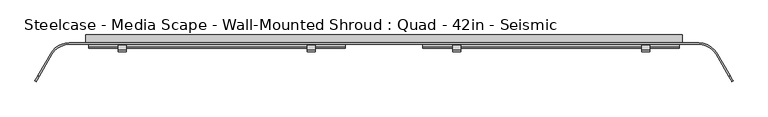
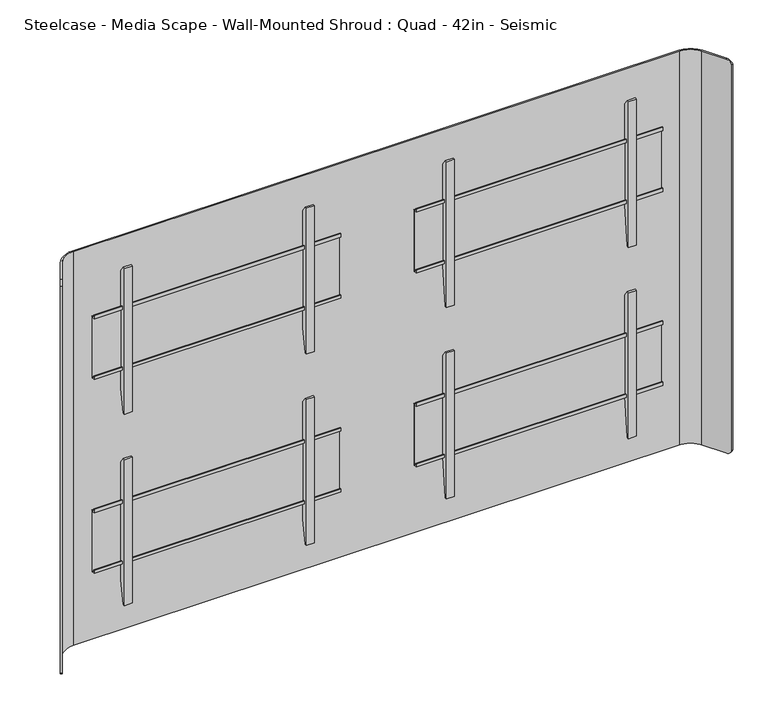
"""IFC4 building model written with IfcOpenShell, lengths in millimetres: furniture geometry, Steelcase - Media Scape - Wall-Mounted Shroud : Quad - 42in - Seismic."""

import ifcopenshell
import ifcopenshell.guid

model = None  # the IFC model being written
_history = None  # IfcOwnerHistory: only IFC2X3 demands one
_inside = {}  # id of a spatial element -> (the spatial element, [elements in it])
_under = {}  # id of a project, library or spatial element -> (it, [spatial elements below it])
_declared = {}  # id of a project -> (the project, [libraries it declares])
_typed = {}  # id of a type object -> (the type object, [elements of that type])
_made_of = {}  # id of a material, layer set ... -> (it, [elements and type objects made of it])


def new_model(schema):
    """Start an empty IFC model of exactly this schema.

    Asked for "IFC4X3", IfcOpenShell would pick the latest addendum, in which some entities
    have other attributes; the version numbers below select the first issue.
    IFC2X3 requires an IfcOwnerHistory on every rooted entity: one is made here for all.
    """
    global model, _history
    if schema == "IFC4X3":
        model = ifcopenshell.file(schema_version=(4, 3, 0, 0))
    else:
        model = ifcopenshell.file(schema=schema)
    _inside.clear()
    _under.clear()
    _declared.clear()
    _typed.clear()
    _made_of.clear()
    _history = None
    if model.schema == "IFC2X3":
        org = make("IfcOrganization", Name="unknown")
        user = make(
            "IfcPersonAndOrganization",
            ThePerson=make("IfcPerson", FamilyName="unknown"),
            TheOrganization=org,
        )
        app = make(
            "IfcApplication",
            ApplicationDeveloper=org,
            Version="unknown",
            ApplicationFullName="unknown",
            ApplicationIdentifier="unknown",
        )
        _history = make(
            "IfcOwnerHistory",
            OwningUser=user,
            OwningApplication=app,
            ChangeAction="ADDED",
            CreationDate=0,
        )
    return model


def make(cls, **values):
    """One entity of the class cls with the attributes given. An attribute that is None is left unset."""
    return model.create_entity(
        cls, **{name: value for name, value in values.items() if value is not None}
    )


def rooted(cls, **values):
    """An entity with a GlobalId (a new one), such as an element, a storey or a relation."""
    return make(cls, GlobalId=ifcopenshell.guid.new(), OwnerHistory=_history, **values)


def si_unit(unit_type, name, prefix=None):
    """IfcSIUnit, for example si_unit("LENGTHUNIT", "METRE", prefix="MILLI")."""
    return make("IfcSIUnit", UnitType=unit_type, Prefix=prefix, Name=name)


def assignment(units):
    """IfcUnitAssignment: the units of a project."""
    return None if units is None else make("IfcUnitAssignment", Units=units)


def point(xyz):
    """IfcCartesianPoint."""
    return None if xyz is None else make("IfcCartesianPoint", Coordinates=xyz)


def direction(xyz):
    """IfcDirection."""
    return None if xyz is None else make("IfcDirection", DirectionRatios=xyz)


def frame(location, z_axis=None, x_axis=None):
    """IfcAxis2Placement3D, a coordinate frame: its origin and axes. An axis left out is left unset."""
    return make(
        "IfcAxis2Placement3D",
        Location=point(location),
        Axis=direction(z_axis),
        RefDirection=direction(x_axis),
    )


def origin():
    """The frame at (0, 0, 0) with its axes left unset."""
    return frame((0.0, 0.0, 0.0))


def place(relative_to, where):
    """IfcLocalPlacement: puts the frame where relative to a parent placement (None: the world)."""
    return make(
        "IfcLocalPlacement", PlacementRelTo=relative_to, RelativePlacement=where
    )


def context(
    kind, dimensions, precision=None, world=None, true_north=None, identifier=None
):
    """IfcGeometricRepresentationContext, for example the 3D "Model" context."""
    return make(
        "IfcGeometricRepresentationContext",
        ContextIdentifier=identifier,
        ContextType=kind,
        CoordinateSpaceDimension=dimensions,
        Precision=precision,
        WorldCoordinateSystem=world,
        TrueNorth=true_north,
    )


def project(units=None, contexts=None):
    """IfcProject with its units and contexts."""
    return rooted(
        "IfcProject",
        Name="project",
        RepresentationContexts=contexts,
        UnitsInContext=assignment(units),
    )


def spatial(cls, under=None, at=None, **own):
    """A site, building, storey or space (cls), placed at a placement, below another one or the project."""
    s = rooted(cls, ObjectPlacement=at, **own)
    if under is not None:
        _under.setdefault(under.id(), (under, []))[1].append(s)
    return s


def polyline(points):
    """IfcPolyline through the points."""
    return make("IfcPolyline", Points=[point(p) for p in points])


def circle_curve(where, radius):
    """IfcCircle in the frame where."""
    return make("IfcCircle", Position=where, Radius=radius)


def outline(outer, holes=None, kind="AREA"):
    """IfcArbitraryClosedProfileDef: a profile drawn as a closed curve; with holes, ...WithVoids."""
    if holes is None:
        return make("IfcArbitraryClosedProfileDef", ProfileType=kind, OuterCurve=outer)
    return make(
        "IfcArbitraryProfileDefWithVoids",
        ProfileType=kind,
        OuterCurve=outer,
        InnerCurves=holes,
    )


def extrude(swept, where, along, depth):
    """IfcExtrudedAreaSolid: the profile swept, set in the frame where, extruded along a direction by depth."""
    return make(
        "IfcExtrudedAreaSolid",
        SweptArea=swept,
        Position=where,
        ExtrudedDirection=direction(along),
        Depth=depth,
    )


def shape(context_of_items, identifier, shape_type, items):
    """IfcShapeRepresentation: the items that make up one representation, for example the "Body"."""
    return make(
        "IfcShapeRepresentation",
        ContextOfItems=context_of_items,
        RepresentationIdentifier=identifier,
        RepresentationType=shape_type,
        Items=items,
    )


def source(mapping_origin, context_of_items, identifier, shape_type, items):
    """IfcRepresentationMap: a shape defined once, which mapped items show again and again."""
    return make(
        "IfcRepresentationMap",
        MappingOrigin=mapping_origin,
        MappedRepresentation=shape(context_of_items, identifier, shape_type, items),
    )


def transform(
    local_origin,
    x_axis=None,
    y_axis=None,
    z_axis=None,
    scale=None,
    scale2=None,
    scale3=None,
    uniform=True,
):
    """IfcCartesianTransformationOperator3D, or its non-uniform kind. x_axis, y_axis, z_axis: its Axis1, 2, 3."""
    if uniform:
        return make(
            "IfcCartesianTransformationOperator3D",
            Axis1=direction(x_axis),
            Axis2=direction(y_axis),
            LocalOrigin=point(local_origin),
            Scale=scale,
            Axis3=direction(z_axis),
        )
    return make(
        "IfcCartesianTransformationOperator3DnonUniform",
        Axis1=direction(x_axis),
        Axis2=direction(y_axis),
        LocalOrigin=point(local_origin),
        Scale=scale,
        Axis3=direction(z_axis),
        Scale2=scale2,
        Scale3=scale3,
    )


def mapped(mapping_source, mapping_target):
    """IfcMappedItem: shows the shape of a source again, moved by a transform."""
    return make(
        "IfcMappedItem", MappingSource=mapping_source, MappingTarget=mapping_target
    )


def made_of(thing, what):
    """Note that an element or type object is made of a material, layer set ...; save() writes the relation."""
    if what is not None:
        _made_of.setdefault(what.id(), (what, []))[1].append(thing)
    return thing


def element(
    cls,
    number,
    at=None,
    inside=None,
    cuts=None,
    type_object=None,
    material=None,
    context=None,
    identifier="Body",
    shape_type=None,
    held_by="IfcProductDefinitionShape",
    body=None,
    shapes=None,
    **own,
):
    """One element of the class cls, such as IfcWall. Its Tag is "e" and its number.

    at: its placement. inside: the storey or other place that contains it. cuts: it is an
    opening in that element (IfcRelVoidsElement). A single representation is given by context,
    identifier, shape_type and body (its items); several are given by shapes. held_by: the class
    of the entity that holds the representations. save() writes the other relations.
    """
    e = rooted(cls, Tag="e%d" % number, ObjectPlacement=at, **own)
    if body is not None:
        shapes = [shape(context, identifier, shape_type, body)]
    if shapes is not None:
        e.Representation = make(held_by, Representations=shapes)
    if inside is not None:
        _inside.setdefault(inside.id(), (inside, []))[1].append(e)
    if cuts is not None:
        rooted(
            "IfcRelVoidsElement", RelatingBuildingElement=cuts, RelatedOpeningElement=e
        )
    if type_object is not None:
        _typed.setdefault(type_object.id(), (type_object, []))[1].append(e)
    return made_of(e, material)


def aggregate(whole, parts):
    """IfcRelAggregates: a whole, such as a stair, and the parts it consists of."""
    return rooted("IfcRelAggregates", RelatingObject=whole, RelatedObjects=parts)


def save(model, path):
    """Write the relations noted so far, then the file.

    IfcRelAggregates (storeys below a building ...), IfcRelContainedInSpatialStructure (elements
    in a storey), IfcRelDefinesByType, IfcRelAssociatesMaterial and IfcRelDeclares: one each for
    every whole, place, type object, material and project.
    """
    for whole, parts in _under.values():
        aggregate(whole, parts)
    for where, things in _inside.values():
        rooted(
            "IfcRelContainedInSpatialStructure",
            RelatedElements=things,
            RelatingStructure=where,
        )
    for kind, things in _typed.values():
        rooted("IfcRelDefinesByType", RelatedObjects=things, RelatingType=kind)
    for what, things in _made_of.values():
        rooted("IfcRelAssociatesMaterial", RelatedObjects=things, RelatingMaterial=what)
    for by, libraries in _declared.values():
        rooted("IfcRelDeclares", RelatingContext=by, RelatedDefinitions=libraries)
    model.write(path)


def plane_surface(at):
    """IfcPlane: the flat surface through the origin of the frame at, square to its z axis."""
    return make("IfcPlane", Position=at)


def cylinder_surface(at, radius):
    """IfcCylindricalSurface: all points at the distance radius from the z axis of the frame at."""
    return make("IfcCylindricalSurface", Position=at, Radius=radius)


def revolved_surface(curve, axis_point, axis_direction):
    """IfcSurfaceOfRevolution: the curve turned about the line through axis_point along axis_direction."""
    return make(
        "IfcSurfaceOfRevolution",
        SweptCurve=make("IfcArbitraryOpenProfileDef", ProfileType="CURVE", Curve=curve),
        AxisPosition=make("IfcAxis1Placement", Location=point(axis_point), Axis=direction(axis_direction)),
    )


def advanced_brep(points, edges, surfaces, faces):
    """IfcAdvancedBrep: a solid bounded by faces that lie on surfaces and meet in shared edges.

    An edge is (start, end): straight between two places in points (the first is 0);
    or (start, end, curve); or (start, end, curve, False) where it runs against its curve.
    A face is (place in surfaces, loops), or (place, loops, False) where it looks against
    its surface's normal. A loop lists edges by number (the first is 1), with a minus sign
    where the edge is run from its end to its start. The first loop is the outer one.
    """
    corners = [point(p) for p in points]
    vertices = [make("IfcVertexPoint", VertexGeometry=c) for c in corners]
    made = []
    for start, end, *more in edges:
        made.append(
            make(
                "IfcEdgeCurve",
                EdgeStart=vertices[start],
                EdgeEnd=vertices[end],
                EdgeGeometry=more[0] if more else make("IfcPolyline", Points=[corners[start], corners[end]]),
                SameSense=more[1] if len(more) > 1 else True,
            )
        )
    hull = []
    for where, loops, *sense in faces:
        bounds = []
        for j, loop in enumerate(loops):
            ring = [make("IfcOrientedEdge", EdgeElement=made[abs(k) - 1], Orientation=k > 0) for k in loop]
            bounds.append(
                make(
                    "IfcFaceOuterBound" if j == 0 else "IfcFaceBound",
                    Bound=make("IfcEdgeLoop", EdgeList=ring),
                    Orientation=True,
                )
            )
        hull.append(make("IfcAdvancedFace", Bounds=bounds, FaceSurface=surfaces[where], SameSense=sense[0] if sense else True))
    return make("IfcAdvancedBrep", Outer=make("IfcClosedShell", CfsFaces=hull))


def steelcase_media_scape_wall_mounted_shroud_quad_42in_seismic_1889dec9(model_context):
    return source(origin(), model_context, "Body", "SolidModel", [
        extrude(outline(polyline([(-32.6531824, 1422.3760207), (-32.6531824, 1070.6606853), (-46.5069553, 934.5929758), (-53.3399828, 934.5929758), (-53.3399828, 1442.593), (-46.5596063, 1442.593), (-32.6531824, 1422.3760207)])), frame((816.6102868, 0.0, 0.0), z_axis=(1.0, 0.0, 0.0), x_axis=(0.0, 1.0, 0.0)), (0.0, 0.0, 1.0), 26.1592872),
        extrude(outline(polyline([(-32.6531824, 1422.3760207), (-32.6531824, 1070.5614666), (-46.4968533, 934.5929758), (-53.3399828, 934.5929758), (-53.3399828, 1442.593), (-46.5596063, 1442.593), (-32.6531824, 1422.3760207)])), frame((217.172426, 0.0, 0.0), z_axis=(1.0, 0.0, 0.0), x_axis=(0.0, 1.0, 0.0)), (0.0, 0.0, 1.0), 26.1592872),
        extrude(outline(polyline([(-32.6531824, 1422.4553957), (-32.6531824, 1012.2208416), (-46.5049349, 934.5929758), (-53.3399828, 934.5929758), (-53.3399828, 1442.593), (-46.5050076, 1442.593), (-32.6531824, 1422.4553957)])), frame((-243.3317132, 0.0, 0.0), z_axis=(1.0, 0.0, 0.0), x_axis=(0.0, 1.0, 0.0)), (0.0, 0.0, 1.0), 26.1592872),
        extrude(outline(polyline([(-32.6531824, 1422.4553957), (-32.6531824, 1012.2208416), (-46.5049349, 934.5929758), (-53.3399828, 934.5929758), (-53.3399828, 1442.593), (-46.5050076, 1442.593), (-32.6531824, 1422.4553957)])), frame((-842.769574, 0.0, 0.0), z_axis=(1.0, 0.0, 0.0), x_axis=(0.0, 1.0, 0.0)), (0.0, 0.0, 1.0), 26.1592872),
        extrude(outline(polyline([(-42.4942785, 1283.843), (-42.4942785, 1295.7554512), (-39.8272175, 1295.7554512), (-39.8272175, 1286.4172973), (-29.9720009, 1286.4172973), (-29.9720009, 1072.1649274), (-42.3164551, 1072.1649274), (-42.3164551, 1083.1067789), (-39.649394, 1083.1067789), (-39.649394, 1074.8236302), (-32.6531824, 1074.8236302), (-32.6531824, 1283.843), (-42.4942785, 1283.843)])), frame((123.571, 0.0, 0.0), z_axis=(1.0, 0.0, 0.0), x_axis=(0.0, 1.0, 0.0)), (0.0, 0.0, 1.0), 812.8),
        extrude(outline(polyline([(-42.4942785, 1283.750309), (-42.4942785, 1295.7554512), (-39.8272175, 1295.7554512), (-39.8272175, 1286.4172973), (-29.9720009, 1286.4172973), (-29.9720009, 1072.1649274), (-42.3164551, 1072.1649274), (-42.3164551, 1083.0140878), (-39.649394, 1083.0140878), (-39.649394, 1074.8236302), (-32.6531824, 1074.8236302), (-32.6531824, 1283.750309), (-42.4942785, 1283.750309)])), frame((-936.371, 0.0, 0.0), z_axis=(1.0, 0.0, 0.0), x_axis=(0.0, 1.0, 0.0)), (0.0, 0.0, 1.0), 812.8),
        extrude(outline(polyline([(-42.4942785, 1959.3506215), (-42.4942785, 1971.34487), (-39.8272175, 1971.34487), (-39.8272175, 1961.9977661), (-29.9720009, 1961.9977661), (-29.9720009, 1747.6725488), (-42.3164551, 1747.6725488), (-42.3164551, 1758.6144003), (-39.649394, 1758.6144003), (-39.649394, 1750.3373571), (-32.6531824, 1750.3373571), (-32.6531824, 1959.3506215), (-42.4942785, 1959.3506215)])), frame((123.571, 0.0, 0.0), z_axis=(1.0, 0.0, 0.0), x_axis=(0.0, 1.0, 0.0)), (0.0, 0.0, 1.0), 812.8),
        extrude(outline(polyline([(-32.6531824, 2088.6180449), (-32.6531824, 1736.9027095), (-46.5049349, 1600.8548437), (-53.3399828, 1600.8548437), (-53.3399828, 2108.8350242), (-46.5596063, 2108.8350242), (-32.6531824, 2088.6180449)])), frame((816.6102868, 0.0, 0.0), z_axis=(1.0, 0.0, 0.0), x_axis=(0.0, 1.0, 0.0)), (0.0, 0.0, 1.0), 26.1592872),
        extrude(outline(polyline([(-32.6531824, 2088.6180449), (-32.6531824, 1736.8034908), (-46.4968533, 1600.835), (-53.3399828, 1600.835), (-53.3399828, 2108.8350242), (-46.5596063, 2108.8350242), (-32.6531824, 2088.6180449)])), frame((217.172426, 0.0, 0.0), z_axis=(1.0, 0.0, 0.0), x_axis=(0.0, 1.0, 0.0)), (0.0, 0.0, 1.0), 26.1592872),
        extrude(outline(polyline([(-42.4942785, 1959.3307777), (-42.4942785, 1971.34487), (-39.8272175, 1971.34487), (-39.8272175, 1961.9977661), (-29.9720009, 1961.9977661), (-29.9720009, 1747.6725488), (-42.3164551, 1747.6725488), (-42.3164551, 1758.5945566), (-39.649394, 1758.5945566), (-39.649394, 1750.3373571), (-32.6531824, 1750.3373571), (-32.6531824, 1959.3307777), (-42.4942785, 1959.3307777)])), frame((-936.371, 0.0, 0.0), z_axis=(1.0, 0.0, 0.0), x_axis=(0.0, 1.0, 0.0)), (0.0, 0.0, 1.0), 812.8),
        extrude(outline(polyline([(-32.6531824, 2088.6974199), (-32.6531824, 1678.4628658), (-46.5049349, 1600.835), (-53.3399828, 1600.835), (-53.3399828, 2108.8350242), (-46.5050076, 2108.8350242), (-32.6531824, 2088.6974199)])), frame((-243.3317132, 0.0, 0.0), z_axis=(1.0, 0.0, 0.0), x_axis=(0.0, 1.0, 0.0)), (0.0, 0.0, 1.0), 26.1592872),
        extrude(outline(polyline([(-32.6531824, 2088.6974199), (-32.6531824, 1678.4628658), (-46.5049349, 1600.835), (-53.3399828, 1600.835), (-53.3399828, 2108.8350242), (-46.5050076, 2108.8350242), (-32.6531824, 2088.6974199)])), frame((-842.769574, 0.0, 0.0), z_axis=(1.0, 0.0, 0.0), x_axis=(0.0, 1.0, 0.0)), (0.0, 0.0, 1.0), 26.1592872),
        extrude(outline(polyline([(946.15, -25.4), (-946.15, -25.4), (-946.15, 0.0), (946.15, 0.0), (946.15, -25.4)])), frame((0.0, 0.0, 835.914), z_axis=(0.0, 0.0, 1.0), x_axis=(1.0, 0.0, 0.0)), (0.0, 0.0, 1.0), 76.2508167),
        advanced_brep(
        [(-1052.9586135, -61.722, 2207.514), (-997.966002, -29.9720009, 2207.514), (997.966, -29.9720009, 2207.514), (1052.9586135, -61.722, 2207.514), (1093.079586, -131.2135628, 2207.514), (1097.0390541, -128.9275628, 2207.514), (1056.9180817, -59.436, 2207.514), (997.966002, -25.4, 2207.514), (-997.966, -25.4, 2207.514), (-1056.9180817, -59.436, 2207.514), (-1097.0421659, -128.9329524, 2207.514), (-1093.0826977, -131.2189524, 2207.514), (-1056.9180817, -59.436, 835.914), (-997.966002, -25.4, 835.914), (997.966, -25.4, 835.914), (1056.9180817, -59.436, 835.914), (1097.0906629, -129.0169518, 835.914), (1093.1311948, -131.3029518, 835.914), (1052.9586135, -61.722, 835.914), (997.966002, -29.9720009, 835.914), (-997.966, -29.9720009, 835.914), (-1052.9586135, -61.722, 835.914), (-1093.1454014, -131.3275584, 835.914), (-1097.1048695, -129.0415584, 835.914), (-1106.6090632, -145.5033047, 849.5242766), (-1106.6090632, -145.5033047, 2193.5227735), (-1102.6495951, -147.7893047, 2193.5227735), (-1102.6495951, -147.7893047, 849.5242766), (1102.6270866, -147.7503189, 849.4756893), (1102.6270866, -147.7503189, 2193.6433849), (1106.5865547, -145.4643189, 2193.6433849), (1106.5865547, -145.4643189, 849.4756893)],
        [
            (0, 1, circle_curve(frame((-997.966002, -93.4719991, 2207.514), z_axis=(0.0, 0.0, -1.0), x_axis=(0.0, 1.0, 0.0)), 63.4999981)),
            (1, 2),
            (2, 3, circle_curve(frame((997.966002, -93.4719991, 2207.514), z_axis=(0.0, 0.0, -1.0), x_axis=(0.0, 1.0, 0.0)), 63.4999981)),
            (3, 4),
            (4, 5),
            (5, 6),
            (6, 7, circle_curve(frame((997.9660004, -93.472, 2207.514), z_axis=(0.0, 0.0, 1.0), x_axis=(0.0, 1.0, 0.0)), 68.072)),
            (7, 8),
            (8, 9, circle_curve(frame((-997.9660004, -93.472, 2207.514), z_axis=(0.0, 0.0, 1.0), x_axis=(0.0, 1.0, 0.0)), 68.072)),
            (9, 10),
            (10, 11),
            (11, 0),
            (12, 13, circle_curve(frame((-997.9660004, -93.472, 835.914), z_axis=(0.0, 0.0, -1.0), x_axis=(0.0, 1.0, 0.0)), 68.072)),
            (13, 14),
            (14, 15, circle_curve(frame((997.9660004, -93.472, 835.914), z_axis=(0.0, 0.0, -1.0), x_axis=(0.0, 1.0, 0.0)), 68.072)),
            (15, 16),
            (16, 17),
            (17, 18),
            (18, 19, circle_curve(frame((997.966002, -93.4719991, 835.914), z_axis=(0.0, 0.0, 1.0), x_axis=(0.0, 1.0, 0.0)), 63.4999981)),
            (19, 20),
            (20, 21, circle_curve(frame((-997.966002, -93.4719991, 835.914), z_axis=(0.0, 0.0, 1.0), x_axis=(0.0, 1.0, 0.0)), 63.4999981)),
            (21, 22),
            (22, 23),
            (23, 12),
            (0, 21),
            (20, 1),
            (8, 13),
            (12, 9),
            (23, 24, circle_curve(frame((-1097.1048695, -129.0415584, 855.9928872), z_axis=(-0.8660254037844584, 0.49999999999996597, 0.0), x_axis=(-0.49999999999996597, -0.8660254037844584, 0.0)), 20.0788872)),
            (24, 25),
            (25, 10, circle_curve(frame((-1097.0421659, -128.9329524, 2187.4351128), z_axis=(-0.8660254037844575, 0.4999999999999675, 0.0), x_axis=(-0.4999999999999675, -0.8660254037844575, 0.0)), 20.0788872)),
            (26, 25),
            (24, 27),
            (27, 26),
            (11, 26, circle_curve(frame((-1093.0826977, -131.2189524, 2187.4351128), z_axis=(0.8660254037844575, -0.4999999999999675, 0.0), x_axis=(-0.4999999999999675, -0.8660254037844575, 0.0)), 20.0788872)),
            (27, 22, circle_curve(frame((-1093.1454014, -131.3275584, 855.9928872), z_axis=(0.8660254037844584, -0.49999999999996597, 0.0), x_axis=(-0.49999999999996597, -0.8660254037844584, 0.0)), 20.0788872)),
            (7, 14),
            (19, 2),
            (3, 18),
            (17, 28, circle_curve(frame((1093.1311948, -131.3029518, 855.9928872), z_axis=(-0.8660254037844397, -0.49999999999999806, 0.0), x_axis=(0.49999999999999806, -0.8660254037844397, 0.0)), 20.0788872)),
            (28, 29),
            (29, 4, circle_curve(frame((1093.079586, -131.2135628, 2187.4351128), z_axis=(-0.8660254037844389, -0.49999999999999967, 0.0), x_axis=(0.49999999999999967, -0.8660254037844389, 0.0)), 20.0788872)),
            (30, 29),
            (28, 31),
            (31, 30),
            (15, 6),
            (5, 30, circle_curve(frame((1097.0390541, -128.9275628, 2187.4351128), z_axis=(0.8660254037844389, 0.49999999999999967, 0.0), x_axis=(0.49999999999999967, -0.8660254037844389, 0.0)), 20.0788872)),
            (31, 16, circle_curve(frame((1097.0906629, -129.0169518, 855.9928872), z_axis=(0.8660254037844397, 0.49999999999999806, 0.0), x_axis=(0.49999999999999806, -0.8660254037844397, 0.0)), 20.0788872)),
        ],
        [
            plane_surface(frame((-997.966002, -29.9720009, 2207.514), z_axis=(0.0, 0.0, 1.0), x_axis=(1.0, 0.0, 0.0))),
            plane_surface(frame((-997.966002, -29.9720009, 835.914), z_axis=(0.0, 0.0, -1.0), x_axis=(-1.0, 0.0, 0.0))),
            revolved_surface(polyline([(-997.966002, -29.972001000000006, 835.914), (-997.966002, -29.972001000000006, 2207.514)]), (-997.966002, -93.4719991, 835.914), (0.0, 0.0, -1.0)),
            cylinder_surface(frame((-997.9660004, -93.472, 835.914), z_axis=(0.0, 0.0, 1.0), x_axis=(0.0, 1.0, 0.0)), 68.072),
            plane_surface(frame((-1056.9180817, -59.436, 2207.514), z_axis=(-0.8660254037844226, 0.5000000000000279, 0.0), x_axis=(0.0, 0.0, -1.0))),
            plane_surface(frame((-1106.6090632, -145.5033047, 2207.514), z_axis=(-0.5000000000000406, -0.8660254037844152, 0.0), x_axis=(0.0, 0.0, -1.0))),
            plane_surface(frame((-1102.6495951, -147.7893047, 2207.514), z_axis=(0.8660254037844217, -0.5000000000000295, 0.0), x_axis=(0.0, 0.0, -1.0))),
            plane_surface(frame((997.966, -25.4, 2207.514), z_axis=(0.0, 1.0, 0.0), x_axis=(0.0, 0.0, -1.0))),
            plane_surface(frame((-997.966, -29.9720009, 2207.514), z_axis=(0.0, -1.0, 0.0), x_axis=(0.0, 0.0, -1.0))),
            plane_surface(frame((1052.9586135, -61.722, 2207.514), z_axis=(-0.8660254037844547, -0.4999999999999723, 0.0), x_axis=(0.0, 0.0, -1.0))),
            plane_surface(frame((1102.6270866, -147.7503189, 2207.514), z_axis=(0.4999999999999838, -0.866025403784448, 0.0), x_axis=(0.0, 0.0, -1.0))),
            plane_surface(frame((1106.5865547, -145.4643189, 2207.514), z_axis=(0.8660254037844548, 0.49999999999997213, 0.0), x_axis=(0.0, 0.0, -1.0))),
            cylinder_surface(frame((997.9660004, -93.472, 835.914), z_axis=(0.0, 0.0, 1.0), x_axis=(0.0, 1.0, 0.0)), 68.072),
            revolved_surface(polyline([(997.966002, -29.972001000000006, 835.914), (997.966002, -29.972001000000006, 2207.514)]), (997.966002, -93.4719991, 835.914), (0.0, 0.0, -1.0)),
            cylinder_surface(frame((-1093.0826977, -131.2189524, 2187.4351128), z_axis=(0.8660254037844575, -0.4999999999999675, 0.0), x_axis=(-0.4999999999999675, -0.8660254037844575, 0.0)), 20.0788872),
            cylinder_surface(frame((-1093.1454014, -131.3275584, 855.9928872), z_axis=(0.8660254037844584, -0.49999999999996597, 0.0), x_axis=(-0.49999999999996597, -0.8660254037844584, 0.0)), 20.0788872),
            cylinder_surface(frame((1108.1864297, -122.4916225, 2187.4351128), z_axis=(0.8660254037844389, 0.49999999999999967, 0.0), x_axis=(0.49999999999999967, -0.8660254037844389, 0.0)), 20.0788872),
            cylinder_surface(frame((1105.3789695, -124.2316958, 855.9928872), z_axis=(0.8660254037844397, 0.49999999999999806, 0.0), x_axis=(0.49999999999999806, -0.8660254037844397, 0.0)), 20.0788872),
        ],
        [
            (0, [[1, 2, 3, 4, 5, 6, 7, 8, 9, 10, 11, 12]]),
            (1, [[13, 14, 15, 16, 17, 18, 19, 20, 21, 22, 23, 24]]),
            (2, [[-1, 25, -21, 26]]),
            (3, [[-9, 27, -13, 28]]),
            (4, [[-28, -24, 29, 30, 31, -10]]),
            (5, [[32, -30, 33, 34]]),
            (6, [[-25, -12, 35, -34, 36, -22]]),
            (7, [[-8, 37, -14, -27]]),
            (8, [[-2, -26, -20, 38]]),
            (9, [[39, -18, 40, 41, 42, -4]]),
            (10, [[43, -41, 44, 45]]),
            (11, [[46, -6, 47, -45, 48, -16]]),
            (12, [[-7, -46, -15, -37]]),
            (13, [[-3, -38, -19, -39]]),
            (14, [[-11, -31, -32, -35]]),
            (15, [[-23, -36, -33, -29]]),
            (16, [[-5, -42, -43, -47]]),
            (17, [[-17, -48, -44, -40]]),
        ],
    ),
        extrude(outline(polyline([(912.1648167, 882.6499879), (912.1648167, 946.15), (2131.314, 946.15), (2131.314, -946.15), (912.1648167, -946.15), (912.1648167, -883.6433465), (2067.8139516, -883.6433465), (2067.8139516, 882.6499879), (912.1648167, 882.6499879)])), frame((0.0, -25.4, 0.0), z_axis=(0.0, 1.0, 0.0), x_axis=(0.0, 0.0, 1.0)), (0.0, 0.0, 1.0), 25.4),
    ])


if __name__ == "__main__":
    model = new_model("IFC4")
    model_context = context("Model", 3, world=origin())
    ifc_project = project(units=[si_unit("LENGTHUNIT", "METRE", prefix="MILLI")], contexts=[model_context])
    site = spatial("IfcSite", under=ifc_project)
    building = spatial("IfcBuilding", under=site)
    placement = place(None, origin())
    steelcase_media_scape_wall_mounted_shroud_quad_42in_seismic_shape = steelcase_media_scape_wall_mounted_shroud_quad_42in_seismic_1889dec9(model_context)
    element("IfcFurniture", 1, ObjectType="Steelcase - Media Scape - Wall-Mounted Shroud : Quad - 42in - Seismic", at=placement, inside=building, context=model_context, shape_type="MappedRepresentation", body=[
        mapped(steelcase_media_scape_wall_mounted_shroud_quad_42in_seismic_shape, transform((0.0, 0.0, 0.0), x_axis=(1.0, 0.0, 0.0), y_axis=(0.0, 1.0, 0.0), z_axis=(0.0, 0.0, 1.0))),
    ])
    save(model, "model.ifc")
